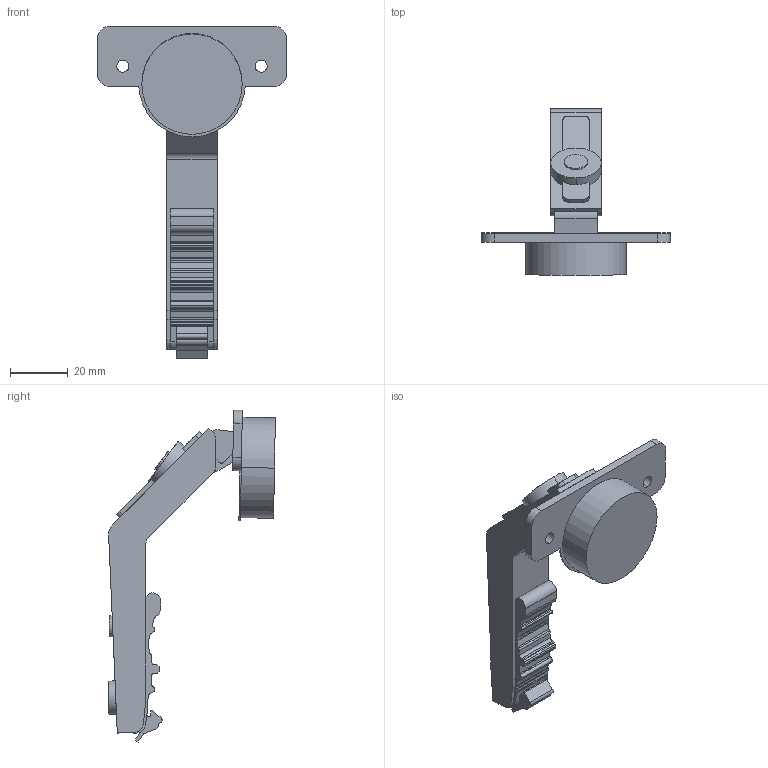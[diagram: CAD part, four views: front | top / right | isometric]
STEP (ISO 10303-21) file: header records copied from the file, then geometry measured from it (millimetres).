
FILE_DESCRIPTION (( 'STEP AP203' ), '1' );
FILE_NAME ('C82H676A-DTC 3D close.STEP', '2024-09-06T08:49:59', ( '微软用户' ), ( '微软中国' ), 'SwSTEP 2.0', 'SolidWorks 2021', '' );
FILE_SCHEMA (( 'CONFIG_CONTROL_DESIGN' ));
Length unit declared in the file: millimetre
Products named in the file (1): C82H676A-DTC 3D close
Bounding box: 65.6 x 57.82 x 115.13 mm (x, y, z)
Volume: 42465.2 mm3; surface area: 13481.7 mm2
Topology: 1 solids, 1 shells, 153 faces, 435 edges, 290 vertices
Faces by surface type: cylinder 77, plane 76
Entity records: 5104 total; most frequent: CARTESIAN_POINT 915, DIRECTION 881, ORIENTED_EDGE 870, EDGE_CURVE 435, AXIS2_PLACEMENT_3D 304, VERTEX_POINT 290, LINE 273, VECTOR 273
